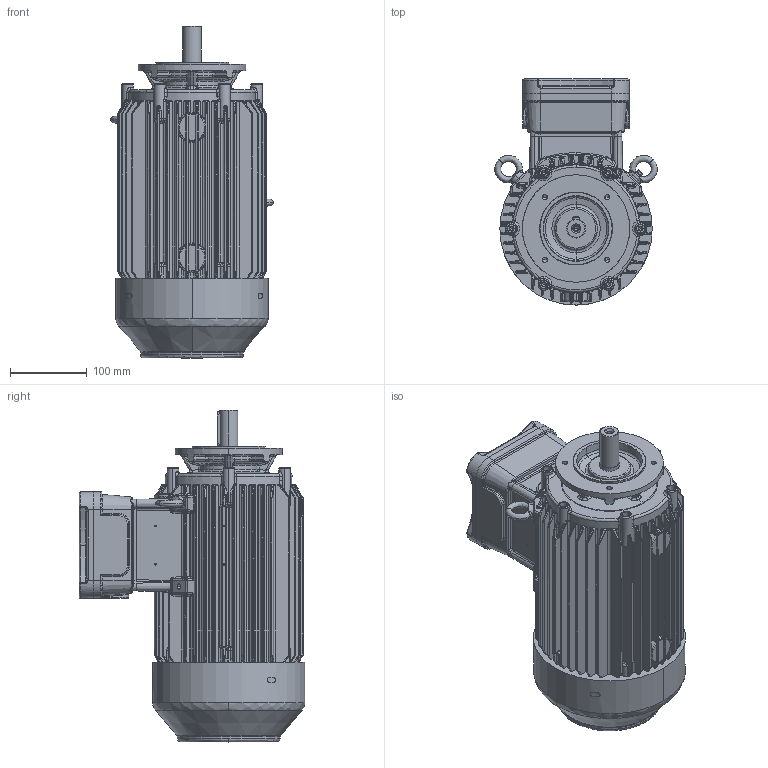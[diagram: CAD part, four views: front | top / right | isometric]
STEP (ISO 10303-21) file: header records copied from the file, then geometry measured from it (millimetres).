
FILE_DESCRIPTION (( 'STEP AP214' ), '1' );
FILE_NAME ('6RD90LB6E3 IM3601.STEP', '2021-07-29T07:31:26', ( '' ), ( '' ), 'SwSTEP 2.0', 'SolidWorks 2018', '' );
FILE_SCHEMA (( 'AUTOMOTIVE_DESIGN' ));
Length unit declared in the file: millimetre
Products named in the file (1): 6RD90LB6E3 IM3601
Bounding box: 211.8 x 294.2 x 432.5 mm (x, y, z)
Volume: 10700836.8 mm3; surface area: 559475.2 mm2
Topology: 1 solids, 23 shells, 3740 faces, 9219 edges, 5528 vertices
Faces by surface type: cylinder 1537, bspline 925, plane 450, cone 387, torus 311, sphere 130
Entity records: 167236 total; most frequent: CARTESIAN_POINT 86904, ORIENTED_EDGE 18022, DIRECTION 15505, EDGE_CURVE 9011, AXIS2_PLACEMENT_3D 6538, VERTEX_POINT 5526, EDGE_LOOP 3961, ADVANCED_FACE 3740
